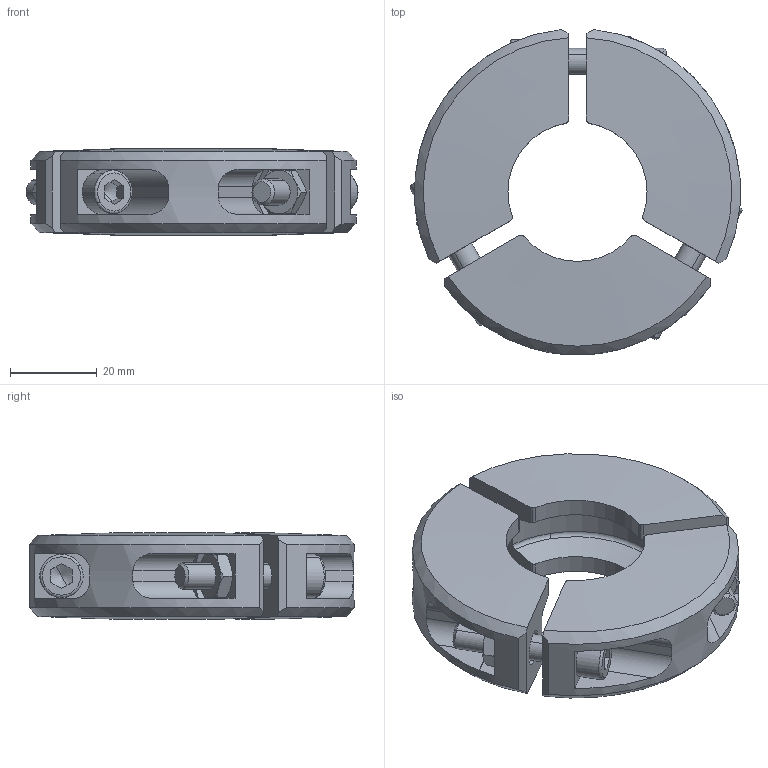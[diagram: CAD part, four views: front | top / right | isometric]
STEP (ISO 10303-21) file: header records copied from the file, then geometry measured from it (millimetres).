
FILE_DESCRIPTION((''),'2;1');
FILE_NAME('W:\211-009.stp','2003-11-10T10:46:41',('KAA'),(''),'Autodesk Inventor (R) 6.0','Autodesk Inventor (R) 6.0','');
FILE_SCHEMA(('CONFIG_CONTROL_DESIGN'));
Length unit declared in the file: millimetre
Products named in the file (1): 211-009
Bounding box: 76.36 x 74.68 x 20 mm (x, y, z)
Volume: 49807.5 mm3; surface area: 20974.2 mm2
Topology: 1 solids, 4 shells, 321 faces, 795 edges, 504 vertices
Faces by surface type: plane 111, cone 96, cylinder 96, torus 12, bspline 6
Entity records: 10159 total; most frequent: CARTESIAN_POINT 2815, ORIENTED_EDGE 1578, DIRECTION 1484, EDGE_CURVE 789, AXIS2_PLACEMENT_3D 595, VERTEX_POINT 504, EDGE_LOOP 357, FACE_OUTER_BOUND 321
